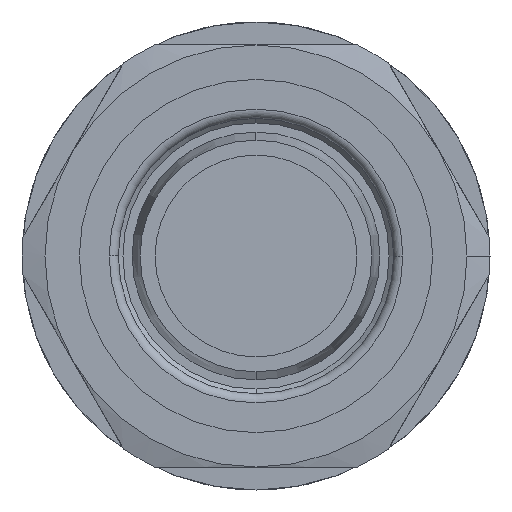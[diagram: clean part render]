
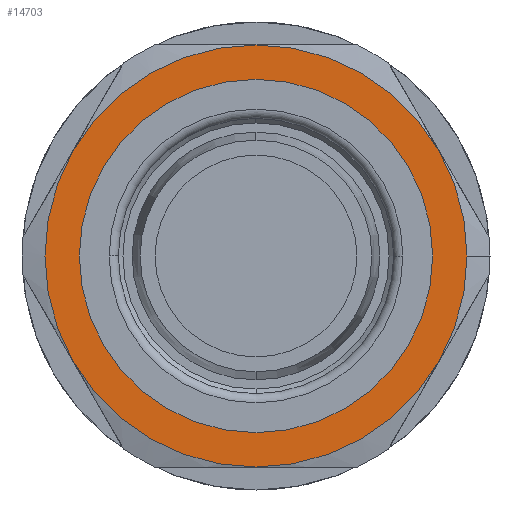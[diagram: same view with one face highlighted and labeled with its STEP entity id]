
A CAD part, front view. The second image highlights one B-rep face of the part: STEP entity #14703.
In plain terms, the highlighted planar face has unit normal (0, -1, 0).
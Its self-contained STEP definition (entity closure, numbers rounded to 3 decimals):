
#197 = VERTEX_POINT ( 'NONE', #17883 ) ;
#453 = AXIS2_PLACEMENT_3D ( 'NONE', #1046, #5581, #11440 ) ;
#545 = EDGE_LOOP ( 'NONE', ( #11428, #4542 ) ) ;
#975 = DIRECTION ( 'NONE',  ( 0., 1., 0. ) ) ;
#1046 = CARTESIAN_POINT ( 'NONE',  ( 0., -54.5, 0. ) ) ;
#1110 = AXIS2_PLACEMENT_3D ( 'NONE', #8313, #18858, #14121 ) ;
#1127 = EDGE_CURVE ( 'NONE', #12148, #197, #5269, .T. ) ;
#1166 = AXIS2_PLACEMENT_3D ( 'NONE', #2753, #8501, #2493 ) ;
#1492 = ORIENTED_EDGE ( 'NONE', *, *, #11656, .F. ) ;
#1911 = DIRECTION ( 'NONE',  ( 0., -1., 0. ) ) ;
#1976 = CARTESIAN_POINT ( 'NONE',  ( 0., -54.5, 0. ) ) ;
#2040 = DIRECTION ( 'NONE',  ( 1., 0., 0. ) ) ;
#2318 = VERTEX_POINT ( 'NONE', #10174 ) ;
#2350 = CARTESIAN_POINT ( 'NONE',  ( 0., -54.5, 0. ) ) ;
#2493 = DIRECTION ( 'NONE',  ( 1., 0., 0. ) ) ;
#2667 = FACE_OUTER_BOUND ( 'NONE', #7845, .T. ) ;
#2753 = CARTESIAN_POINT ( 'NONE',  ( 0., -54.5, 0. ) ) ;
#3298 = CARTESIAN_POINT ( 'NONE',  ( 19.25, -54.5, 0. ) ) ;
#3386 = AXIS2_PLACEMENT_3D ( 'NONE', #2350, #975, #12932 ) ;
#3548 = DIRECTION ( 'NONE',  ( 0., 1., 0. ) ) ;
#4067 = FACE_BOUND ( 'NONE', #545, .T. ) ;
#4345 = CIRCLE ( 'NONE', #1166, 23. ) ;
#4441 = ORIENTED_EDGE ( 'NONE', *, *, #13448, .F. ) ;
#4542 = ORIENTED_EDGE ( 'NONE', *, *, #4721, .F. ) ;
#4683 = VERTEX_POINT ( 'NONE', #13745 ) ;
#4721 = EDGE_CURVE ( 'NONE', #2318, #7424, #11966, .T. ) ;
#4927 = CARTESIAN_POINT ( 'NONE',  ( 23., -54.5, 0. ) ) ;
#5079 = AXIS2_PLACEMENT_3D ( 'NONE', #8375, #12684, #15729 ) ;
#5269 = CIRCLE ( 'NONE', #11781, 23. ) ;
#5581 = DIRECTION ( 'NONE',  ( 0., 1., 0. ) ) ;
#6636 = CARTESIAN_POINT ( 'NONE',  ( 19.919, -54.5, 11.5 ) ) ;
#7220 = EDGE_CURVE ( 'NONE', #12848, #12148, #9070, .T. ) ;
#7424 = VERTEX_POINT ( 'NONE', #3298 ) ;
#7607 = ORIENTED_EDGE ( 'NONE', *, *, #7220, .F. ) ;
#7845 = EDGE_LOOP ( 'NONE', ( #18938, #16736, #9485, #4441, #12231, #7607, #1492 ) ) ;
#8230 = CARTESIAN_POINT ( 'NONE',  ( 0., -54.5, 0. ) ) ;
#8313 = CARTESIAN_POINT ( 'NONE',  ( 0., -54.5, 0. ) ) ;
#8375 = CARTESIAN_POINT ( 'NONE',  ( 0., -54.5, 0. ) ) ;
#8501 = DIRECTION ( 'NONE',  ( 0., 1., 0. ) ) ;
#9070 = CIRCLE ( 'NONE', #3386, 23. ) ;
#9485 = ORIENTED_EDGE ( 'NONE', *, *, #15808, .F. ) ;
#10174 = CARTESIAN_POINT ( 'NONE',  ( -19.25, -54.5, 0. ) ) ;
#10313 = VERTEX_POINT ( 'NONE', #11275 ) ;
#10433 = VERTEX_POINT ( 'NONE', #14537 ) ;
#11083 = CIRCLE ( 'NONE', #1110, 23. ) ;
#11275 = CARTESIAN_POINT ( 'NONE',  ( 0., -54.5, -23. ) ) ;
#11318 = CIRCLE ( 'NONE', #5079, 23. ) ;
#11428 = ORIENTED_EDGE ( 'NONE', *, *, #12749, .F. ) ;
#11440 = DIRECTION ( 'NONE',  ( 1., 0., 0. ) ) ;
#11656 = EDGE_CURVE ( 'NONE', #4683, #12848, #15752, .T. ) ;
#11781 = AXIS2_PLACEMENT_3D ( 'NONE', #8230, #17287, #14303 ) ;
#11966 = CIRCLE ( 'NONE', #17496, 19.25 ) ;
#11973 = AXIS2_PLACEMENT_3D ( 'NONE', #18222, #15430, #16728 ) ;
#12148 = VERTEX_POINT ( 'NONE', #4927 ) ;
#12231 = ORIENTED_EDGE ( 'NONE', *, *, #1127, .F. ) ;
#12380 = DIRECTION ( 'NONE',  ( -1., 0., 0. ) ) ;
#12684 = DIRECTION ( 'NONE',  ( 0., 1., 0. ) ) ;
#12749 = EDGE_CURVE ( 'NONE', #7424, #2318, #14105, .T. ) ;
#12848 = VERTEX_POINT ( 'NONE', #6636 ) ;
#12932 = DIRECTION ( 'NONE',  ( 1., 0., 0. ) ) ;
#13448 = EDGE_CURVE ( 'NONE', #197, #10313, #4345, .T. ) ;
#13723 = AXIS2_PLACEMENT_3D ( 'NONE', #1976, #3548, #2040 ) ;
#13735 = PLANE ( 'NONE',  #13885 ) ;
#13745 = CARTESIAN_POINT ( 'NONE',  ( 0., -54.5, 23. ) ) ;
#13885 = AXIS2_PLACEMENT_3D ( 'NONE', #18202, #1911, #14118 ) ;
#14105 = CIRCLE ( 'NONE', #11973, 19.25 ) ;
#14118 = DIRECTION ( 'NONE',  ( -1., 0., 0. ) ) ;
#14121 = DIRECTION ( 'NONE',  ( 1., 0., 0. ) ) ;
#14303 = DIRECTION ( 'NONE',  ( 1., 0., 0. ) ) ;
#14537 = CARTESIAN_POINT ( 'NONE',  ( -19.919, -54.5, 11.5 ) ) ;
#14703 = ADVANCED_FACE ( 'NONE', ( #4067, #2667 ), #13735, .T. ) ;
#15430 = DIRECTION ( 'NONE',  ( 0., -1., 0. ) ) ;
#15729 = DIRECTION ( 'NONE',  ( 1., 0., 0. ) ) ;
#15752 = CIRCLE ( 'NONE', #13723, 23. ) ;
#15808 = EDGE_CURVE ( 'NONE', #10313, #17138, #17483, .T. ) ;
#16728 = DIRECTION ( 'NONE',  ( -1., 0., 0. ) ) ;
#16736 = ORIENTED_EDGE ( 'NONE', *, *, #18046, .F. ) ;
#16937 = CARTESIAN_POINT ( 'NONE',  ( -19.919, -54.5, -11.5 ) ) ;
#17138 = VERTEX_POINT ( 'NONE', #16937 ) ;
#17287 = DIRECTION ( 'NONE',  ( 0., 1., 0. ) ) ;
#17483 = CIRCLE ( 'NONE', #453, 23. ) ;
#17496 = AXIS2_PLACEMENT_3D ( 'NONE', #18278, #18142, #12380 ) ;
#17883 = CARTESIAN_POINT ( 'NONE',  ( 19.919, -54.5, -11.5 ) ) ;
#18046 = EDGE_CURVE ( 'NONE', #17138, #10433, #11318, .T. ) ;
#18142 = DIRECTION ( 'NONE',  ( 0., -1., 0. ) ) ;
#18159 = EDGE_CURVE ( 'NONE', #10433, #4683, #11083, .T. ) ;
#18202 = CARTESIAN_POINT ( 'NONE',  ( 0., -54.5, 0. ) ) ;
#18222 = CARTESIAN_POINT ( 'NONE',  ( 0., -54.5, 0. ) ) ;
#18278 = CARTESIAN_POINT ( 'NONE',  ( 0., -54.5, 0. ) ) ;
#18858 = DIRECTION ( 'NONE',  ( 0., 1., 0. ) ) ;
#18938 = ORIENTED_EDGE ( 'NONE', *, *, #18159, .F. ) ;
